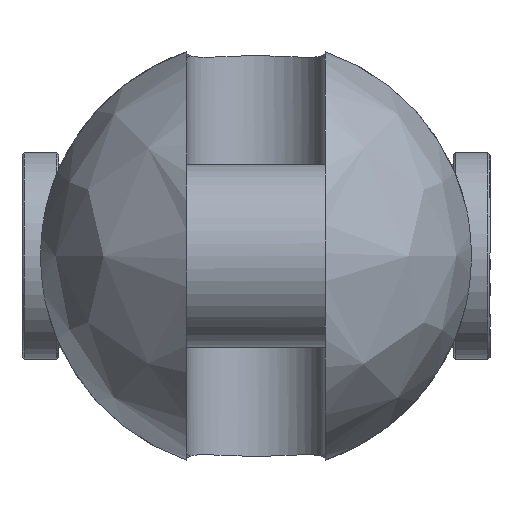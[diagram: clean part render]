
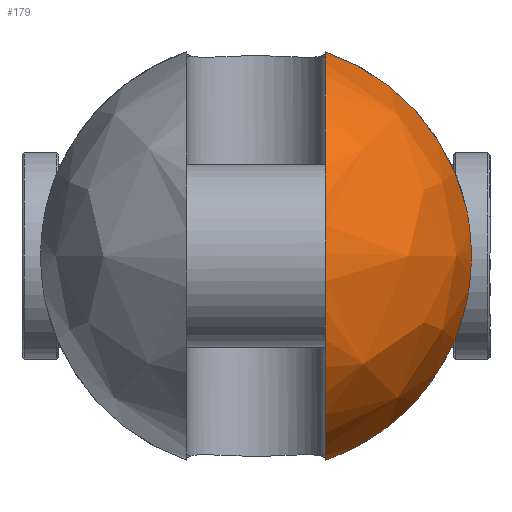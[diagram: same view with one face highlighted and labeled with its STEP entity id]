
A CAD part, left-side view. The second image highlights one B-rep face of the part: STEP entity #179.
In plain terms, the highlighted free-form (B-spline) face has degree [2, 2] with [9, 5] control points.
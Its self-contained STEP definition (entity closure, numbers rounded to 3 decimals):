
#179=ADVANCED_FACE('',(#320),#2417,.T.);
#320=FACE_OUTER_BOUND('',#481,.T.);
#481=EDGE_LOOP('',(#1194,#1195,#1196,#1197));
#1194=ORIENTED_EDGE('',*,*,#1575,.T.);
#1195=ORIENTED_EDGE('',*,*,#1603,.F.);
#1196=ORIENTED_EDGE('',*,*,#1615,.T.);
#1197=ORIENTED_EDGE('',*,*,#1595,.F.);
#1575=EDGE_CURVE('',#2249,#2248,#1983,.T.);
#1595=EDGE_CURVE('',#2249,#2261,#1993,.T.);
#1603=EDGE_CURVE('',#2268,#2248,#1994,.T.);
#1615=EDGE_CURVE('',#2268,#2261,#1789,.T.);
#1789=B_SPLINE_CURVE_WITH_KNOTS('',3,(#6139,#6140,#6141,#6142,#6143,#6144,
#6145,#6146,#6147,#6148,#6149,#6150,#6151,#6152),.UNSPECIFIED.,.F.,.F.,
(4,2,2,2,2,2,4),(0.,1.387,7.119,12.852,
18.585,24.317,25.704),.UNSPECIFIED.);
#1983=(
BOUNDED_CURVE()
B_SPLINE_CURVE(2,(#5883,#5884,#5885,#5886,#5887),.UNSPECIFIED.,.F.,.F.)
B_SPLINE_CURVE_WITH_KNOTS((3,2,3),(-157.707,-78.853,
0.),.UNSPECIFIED.)
CURVE()
GEOMETRIC_REPRESENTATION_ITEM()
RATIONAL_B_SPLINE_CURVE((1.,0.707,1.,0.707,1.))
REPRESENTATION_ITEM('')
);
#1993=(
BOUNDED_CURVE()
B_SPLINE_CURVE(2,(#6009,#6010,#6011),.UNSPECIFIED.,.F.,.F.)
B_SPLINE_CURVE_WITH_KNOTS((3,3),(0.,53.587),.UNSPECIFIED.)
CURVE()
GEOMETRIC_REPRESENTATION_ITEM()
RATIONAL_B_SPLINE_CURVE((1.,0.875,1.))
REPRESENTATION_ITEM('')
);
#1994=(
BOUNDED_CURVE()
B_SPLINE_CURVE(2,(#6066,#6067,#6068),.UNSPECIFIED.,.F.,.F.)
B_SPLINE_CURVE_WITH_KNOTS((3,3),(0.,53.587),.UNSPECIFIED.)
CURVE()
GEOMETRIC_REPRESENTATION_ITEM()
RATIONAL_B_SPLINE_CURVE((1.,0.875,1.))
REPRESENTATION_ITEM('')
);
#2248=VERTEX_POINT('',#5767);
#2249=VERTEX_POINT('',#5768);
#2261=VERTEX_POINT('',#5780);
#2268=VERTEX_POINT('',#5787);
#2417=(
BOUNDED_SURFACE()
B_SPLINE_SURFACE(2,2,((#5481,#5482,#5483,#5484,#5485),(#5486,#5487,#5488,
#5489,#5490),(#5491,#5492,#5493,#5494,#5495),(#5496,#5497,#5498,#5499,#5500),
(#5501,#5502,#5503,#5504,#5505),(#5506,#5507,#5508,#5509,#5510),(#5511,
#5512,#5513,#5514,#5515),(#5516,#5517,#5518,#5519,#5520),(#5521,#5522,#5523,
#5524,#5525)),.UNSPECIFIED.,.T.,.F.,.F.)
B_SPLINE_SURFACE_WITH_KNOTS((3,2,2,2,3),(3,2,3),(0.,83.252,166.504,
249.757,333.009),(0.,83.252,166.504),
 .UNSPECIFIED.)
GEOMETRIC_REPRESENTATION_ITEM()
RATIONAL_B_SPLINE_SURFACE(((1.,0.707,1.,0.707,1.),
(0.707,0.5,0.707,0.5,0.707),(1.,0.707,
1.,0.707,1.),(0.707,0.5,0.707,0.5,0.707),
(1.,0.707,1.,0.707,1.),(0.707,0.5,0.707,
0.5,0.707),(1.,0.707,1.,0.707,1.),(0.707,
0.5,0.707,0.5,0.707),(1.,0.707,1.,0.707,
1.)))
REPRESENTATION_ITEM('')
SURFACE()
);
#5481=CARTESIAN_POINT('',(-76.5,0.,0.));
#5482=CARTESIAN_POINT('',(-76.5,53.,0.));
#5483=CARTESIAN_POINT('',(-23.5,53.,0.));
#5484=CARTESIAN_POINT('',(29.5,53.,0.));
#5485=CARTESIAN_POINT('',(29.5,0.,0.));
#5486=CARTESIAN_POINT('',(-76.5,0.,0.));
#5487=CARTESIAN_POINT('',(-76.5,53.,53.));
#5488=CARTESIAN_POINT('',(-23.5,53.,53.));
#5489=CARTESIAN_POINT('',(29.5,53.,53.));
#5490=CARTESIAN_POINT('',(29.5,0.,0.));
#5491=CARTESIAN_POINT('',(-76.5,0.,0.));
#5492=CARTESIAN_POINT('',(-76.5,0.,53.));
#5493=CARTESIAN_POINT('',(-23.5,0.,53.));
#5494=CARTESIAN_POINT('',(29.5,0.,53.));
#5495=CARTESIAN_POINT('',(29.5,0.,0.));
#5496=CARTESIAN_POINT('',(-76.5,0.,0.));
#5497=CARTESIAN_POINT('',(-76.5,-53.,53.));
#5498=CARTESIAN_POINT('',(-23.5,-53.,53.));
#5499=CARTESIAN_POINT('',(29.5,-53.,53.));
#5500=CARTESIAN_POINT('',(29.5,0.,0.));
#5501=CARTESIAN_POINT('',(-76.5,0.,0.));
#5502=CARTESIAN_POINT('',(-76.5,-53.,0.));
#5503=CARTESIAN_POINT('',(-23.5,-53.,0.));
#5504=CARTESIAN_POINT('',(29.5,-53.,0.));
#5505=CARTESIAN_POINT('',(29.5,0.,0.));
#5506=CARTESIAN_POINT('',(-76.5,0.,0.));
#5507=CARTESIAN_POINT('',(-76.5,-53.,-53.));
#5508=CARTESIAN_POINT('',(-23.5,-53.,-53.));
#5509=CARTESIAN_POINT('',(29.5,-53.,-53.));
#5510=CARTESIAN_POINT('',(29.5,0.,0.));
#5511=CARTESIAN_POINT('',(-76.5,0.,0.));
#5512=CARTESIAN_POINT('',(-76.5,0.,-53.));
#5513=CARTESIAN_POINT('',(-23.5,0.,-53.));
#5514=CARTESIAN_POINT('',(29.5,0.,-53.));
#5515=CARTESIAN_POINT('',(29.5,0.,0.));
#5516=CARTESIAN_POINT('',(-76.5,0.,0.));
#5517=CARTESIAN_POINT('',(-76.5,53.,-53.));
#5518=CARTESIAN_POINT('',(-23.5,53.,-53.));
#5519=CARTESIAN_POINT('',(29.5,53.,-53.));
#5520=CARTESIAN_POINT('',(29.5,0.,0.));
#5521=CARTESIAN_POINT('',(-76.5,0.,0.));
#5522=CARTESIAN_POINT('',(-76.5,53.,0.));
#5523=CARTESIAN_POINT('',(-23.5,53.,0.));
#5524=CARTESIAN_POINT('',(29.5,53.,0.));
#5525=CARTESIAN_POINT('',(29.5,0.,0.));
#5767=CARTESIAN_POINT('',(-23.5,-17.,-50.2));
#5768=CARTESIAN_POINT('',(-23.5,-17.,50.2));
#5780=CARTESIAN_POINT('',(-23.5,-51.565,12.247));
#5787=CARTESIAN_POINT('',(-23.5,-51.565,-12.247));
#5883=CARTESIAN_POINT('',(-23.5,-17.,50.2));
#5884=CARTESIAN_POINT('',(-73.7,-17.,50.2));
#5885=CARTESIAN_POINT('',(-73.7,-17.,0.));
#5886=CARTESIAN_POINT('',(-73.7,-17.,-50.2));
#5887=CARTESIAN_POINT('',(-23.5,-17.,-50.2));
#6009=CARTESIAN_POINT('',(-23.5,-17.,50.2));
#6010=CARTESIAN_POINT('',(-23.5,-44.786,40.79));
#6011=CARTESIAN_POINT('',(-23.5,-51.565,12.247));
#6066=CARTESIAN_POINT('',(-23.5,-51.565,-12.247));
#6067=CARTESIAN_POINT('',(-23.5,-44.786,-40.79));
#6068=CARTESIAN_POINT('',(-23.5,-17.,-50.2));
#6139=CARTESIAN_POINT('',(-23.5,-51.565,-12.247));
#6140=CARTESIAN_POINT('',(-23.712,-51.662,-11.841));
#6141=CARTESIAN_POINT('',(-23.913,-51.754,-11.428));
#6142=CARTESIAN_POINT('',(-24.895,-52.198,-9.281));
#6143=CARTESIAN_POINT('',(-25.502,-52.47,-7.451));
#6144=CARTESIAN_POINT('',(-26.305,-52.829,-3.732));
#6145=CARTESIAN_POINT('',(-26.5,-52.915,-1.842));
#6146=CARTESIAN_POINT('',(-26.5,-52.915,1.842));
#6147=CARTESIAN_POINT('',(-26.305,-52.829,3.732));
#6148=CARTESIAN_POINT('',(-25.502,-52.47,7.451));
#6149=CARTESIAN_POINT('',(-24.895,-52.198,9.281));
#6150=CARTESIAN_POINT('',(-23.913,-51.754,11.428));
#6151=CARTESIAN_POINT('',(-23.712,-51.662,11.841));
#6152=CARTESIAN_POINT('',(-23.5,-51.565,12.247));
